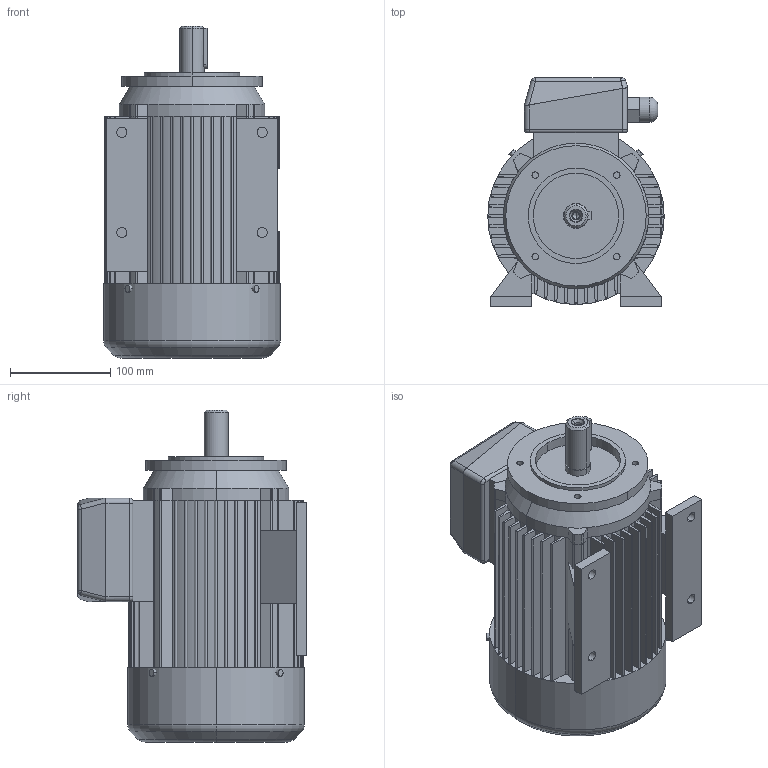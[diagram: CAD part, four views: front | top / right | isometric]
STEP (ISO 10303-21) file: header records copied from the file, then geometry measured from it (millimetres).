
FILE_DESCRIPTION (( 'STEP AP203' ), '1' );
FILE_NAME ('2SIEL90S2,4,6-B34-C2.STEP', '2013-01-07T12:46:32', ( 'INDUKTA' ), ( 'CANTONI MOTOR' ), 'SwSTEP 2.0', 'SolidWorks 2003064', '' );
FILE_SCHEMA (( 'CONFIG_CONTROL_DESIGN' ));
Length unit declared in the file: millimetre
Products named in the file (1): 2SIEL90S2,4,6-B34-C2
Bounding box: 176 x 228 x 331 mm (x, y, z)
Volume: 6386687.3 mm3; surface area: 527924.8 mm2
Topology: 13 solids, 13 shells, 408 faces, 1059 edges, 680 vertices
Faces by surface type: plane 192, cylinder 188, cone 14, torus 10, sphere 4
Entity records: 12582 total; most frequent: DIRECTION 2274, CARTESIAN_POINT 2203, ORIENTED_EDGE 2106, EDGE_CURVE 1053, AXIS2_PLACEMENT_3D 823, VERTEX_POINT 680, LINE 628, VECTOR 628
